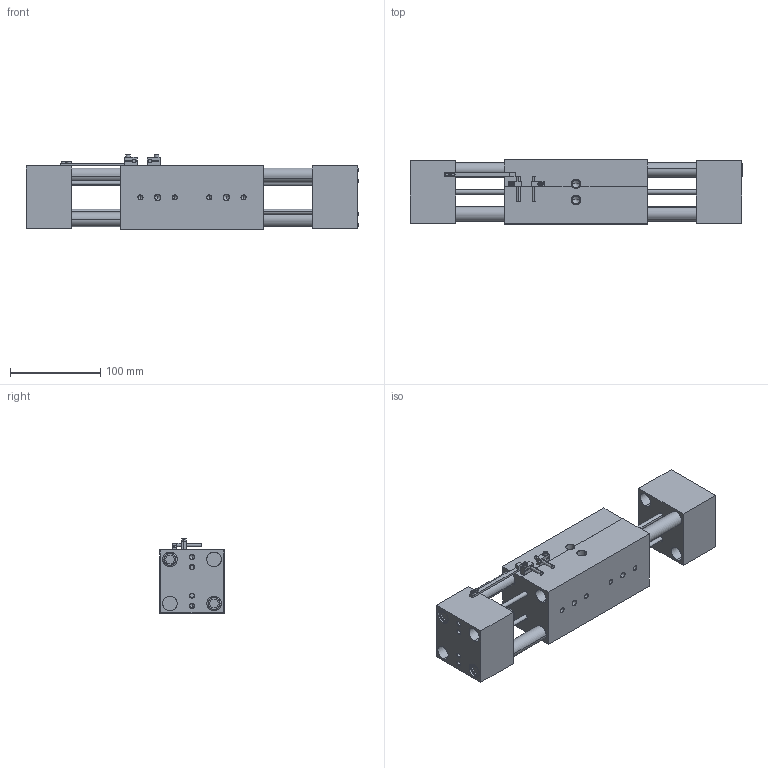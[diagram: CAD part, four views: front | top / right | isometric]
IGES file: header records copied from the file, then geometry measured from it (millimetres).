
Start section: SolidWorks IGES file using analytic representation for surfaces
Global section: file name: C:\Users\jmkuhnes\Pictures\My Transfers\AGW-625-4\AGW-625-4 OPEN in IN.IGS; native system: SolidWorks 2013; preprocessor: SolidWorks 2013; author: jmkuhnes; date: 141125.095534; units: inch
Bounding box: 368.3 x 71.12 x 83.19 mm (x, y, z)
Surface area: 201834.6 mm2 (no closed solid volume)
Topology: 0 solids, 0 shells, 389 faces, 5110 edges, 5074 vertices
Faces by surface type: revolution 216, bspline 173
